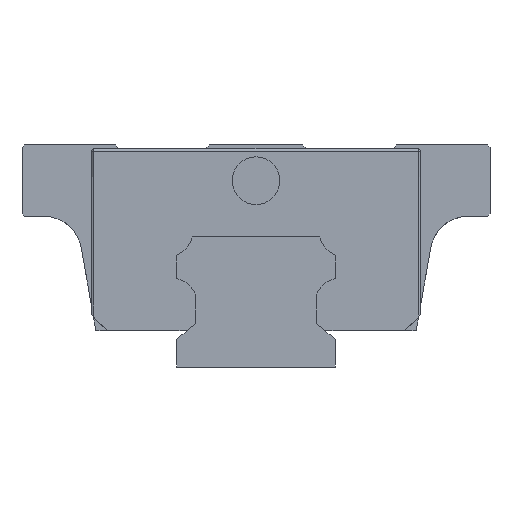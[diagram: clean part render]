
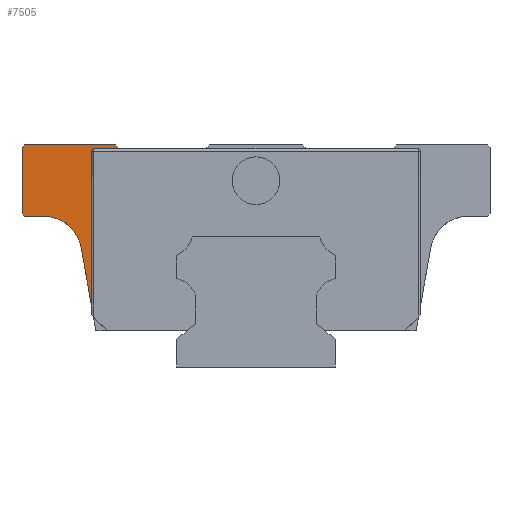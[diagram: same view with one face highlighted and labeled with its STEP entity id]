
A CAD part, left-side view. The second image highlights one B-rep face of the part: STEP entity #7505.
In plain terms, the highlighted planar face has unit normal (-1, 0, 0).
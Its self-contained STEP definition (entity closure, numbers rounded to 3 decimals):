
#331 = VECTOR ( 'NONE', #7490, 1000. ) ;
#350 = AXIS2_PLACEMENT_3D ( 'NONE', #927, #6254, #6780 ) ;
#358 = CARTESIAN_POINT ( 'NONE',  ( -23.35, 3.032, -7.173 ) ) ;
#469 = CIRCLE ( 'NONE', #350, 0.295 ) ;
#571 = CIRCLE ( 'NONE', #2782, 4.75 ) ;
#577 = CARTESIAN_POINT ( 'NONE',  ( -23.35, 22.036, 15.075 ) ) ;
#680 = EDGE_CURVE ( 'NONE', #1243, #4625, #4195, .T. ) ;
#725 = ORIENTED_EDGE ( 'NONE', *, *, #2370, .T. ) ;
#826 = DIRECTION ( 'NONE',  ( 0., -0.707, -0.707 ) ) ;
#846 = CARTESIAN_POINT ( 'NONE',  ( -23.35, 29.5, 19.295 ) ) ;
#927 = CARTESIAN_POINT ( 'NONE',  ( -23.35, 20.455, 27.205 ) ) ;
#929 = VECTOR ( 'NONE', #3980, 1000. ) ;
#1055 = VECTOR ( 'NONE', #2989, 1000. ) ;
#1141 = VECTOR ( 'NONE', #1935, 1000. ) ;
#1243 = VERTEX_POINT ( 'NONE', #4501 ) ;
#1263 = ORIENTED_EDGE ( 'NONE', *, *, #6845, .T. ) ;
#1285 = LINE ( 'NONE', #5395, #6929 ) ;
#1289 = PLANE ( 'NONE',  #1899 ) ;
#1326 = VERTEX_POINT ( 'NONE', #4746 ) ;
#1333 = CARTESIAN_POINT ( 'NONE',  ( -23.35, -8.741, 4.6 ) ) ;
#1367 = DIRECTION ( 'NONE',  ( 0., 0., 1. ) ) ;
#1476 = CARTESIAN_POINT ( 'NONE',  ( -23.35, -20.542, 27.5 ) ) ;
#1637 = ORIENTED_EDGE ( 'NONE', *, *, #5905, .T. ) ;
#1720 = CARTESIAN_POINT ( 'NONE',  ( -23.35, 29.5, 28. ) ) ;
#1792 = ORIENTED_EDGE ( 'NONE', *, *, #6629, .F. ) ;
#1868 = ORIENTED_EDGE ( 'NONE', *, *, #2943, .T. ) ;
#1876 = LINE ( 'NONE', #4221, #1055 ) ;
#1899 = AXIS2_PLACEMENT_3D ( 'NONE', #1333, #7201, #1367 ) ;
#1935 = DIRECTION ( 'NONE',  ( 0., 0.707, -0.707 ) ) ;
#1969 = CARTESIAN_POINT ( 'NONE',  ( -23.35, 21.932, 35.273 ) ) ;
#2210 = DIRECTION ( 'NONE',  ( 1., 0., 0. ) ) ;
#2243 = DIRECTION ( 'NONE',  ( 0., 0., 1. ) ) ;
#2370 = EDGE_CURVE ( 'NONE', #1326, #7393, #469, .T. ) ;
#2627 = EDGE_CURVE ( 'NONE', #4217, #7567, #5984, .T. ) ;
#2631 = ORIENTED_EDGE ( 'NONE', *, *, #2627, .T. ) ;
#2782 = AXIS2_PLACEMENT_3D ( 'NONE', #7532, #2210, #2243 ) ;
#2905 = CARTESIAN_POINT ( 'NONE',  ( -23.35, 29.5, 27.705 ) ) ;
#2936 = VERTEX_POINT ( 'NONE', #4560 ) ;
#2943 = EDGE_CURVE ( 'NONE', #6605, #2936, #7470, .T. ) ;
#2989 = DIRECTION ( 'NONE',  ( 0., 0., -1. ) ) ;
#3115 = DIRECTION ( 'NONE',  ( 0., -0.174, -0.985 ) ) ;
#3797 = EDGE_CURVE ( 'NONE', #1326, #7567, #1876, .T. ) ;
#3818 = VERTEX_POINT ( 'NONE', #5297 ) ;
#3874 = CARTESIAN_POINT ( 'NONE',  ( -23.35, 20.455, 27.5 ) ) ;
#3980 = DIRECTION ( 'NONE',  ( 0., 0.643, 0.766 ) ) ;
#4021 = LINE ( 'NONE', #6965, #929 ) ;
#4030 = DIRECTION ( 'NONE',  ( 0., 0., -1. ) ) ;
#4173 = VERTEX_POINT ( 'NONE', #5606 ) ;
#4195 = LINE ( 'NONE', #1969, #1141 ) ;
#4217 = VERTEX_POINT ( 'NONE', #577 ) ;
#4221 = CARTESIAN_POINT ( 'NONE',  ( -23.35, 20.75, 26.875 ) ) ;
#4264 = ORIENTED_EDGE ( 'NONE', *, *, #4968, .T. ) ;
#4477 = ORIENTED_EDGE ( 'NONE', *, *, #680, .T. ) ;
#4501 = CARTESIAN_POINT ( 'NONE',  ( -23.35, 29.205, 28. ) ) ;
#4560 = CARTESIAN_POINT ( 'NONE',  ( -23.35, 26.714, 19. ) ) ;
#4625 = VERTEX_POINT ( 'NONE', #2905 ) ;
#4746 = CARTESIAN_POINT ( 'NONE',  ( -23.35, 20.75, 27.205 ) ) ;
#4769 = LINE ( 'NONE', #358, #7187 ) ;
#4815 = EDGE_LOOP ( 'NONE', ( #1792, #1637, #6454, #4477, #5962, #1263, #1868, #4264, #2631, #6079, #725 ) ) ;
#4841 = VECTOR ( 'NONE', #4030, 1000. ) ;
#4881 = CARTESIAN_POINT ( 'NONE',  ( -23.35, 22.728, 19. ) ) ;
#4924 = VERTEX_POINT ( 'NONE', #846 ) ;
#4968 = EDGE_CURVE ( 'NONE', #2936, #4217, #571, .T. ) ;
#5120 = EDGE_CURVE ( 'NONE', #3818, #1243, #1285, .T. ) ;
#5297 = CARTESIAN_POINT ( 'NONE',  ( -23.35, 17.7, 28. ) ) ;
#5395 = CARTESIAN_POINT ( 'NONE',  ( -23.35, 17.7, 28. ) ) ;
#5400 = CARTESIAN_POINT ( 'NONE',  ( -23.35, 20.75, 7.78 ) ) ;
#5606 = CARTESIAN_POINT ( 'NONE',  ( -23.35, 17.28, 27.5 ) ) ;
#5723 = LINE ( 'NONE', #1720, #4841 ) ;
#5905 = EDGE_CURVE ( 'NONE', #4173, #3818, #4021, .T. ) ;
#5919 = DIRECTION ( 'NONE',  ( 0., 1., 0. ) ) ;
#5962 = ORIENTED_EDGE ( 'NONE', *, *, #7009, .T. ) ;
#5984 = LINE ( 'NONE', #4881, #6459 ) ;
#6079 = ORIENTED_EDGE ( 'NONE', *, *, #3797, .F. ) ;
#6126 = CARTESIAN_POINT ( 'NONE',  ( -23.35, 29.205, 19. ) ) ;
#6254 = DIRECTION ( 'NONE',  ( 1., 0., 0. ) ) ;
#6314 = DIRECTION ( 'NONE',  ( 0., -1., 0. ) ) ;
#6454 = ORIENTED_EDGE ( 'NONE', *, *, #5120, .T. ) ;
#6459 = VECTOR ( 'NONE', #3115, 1000. ) ;
#6605 = VERTEX_POINT ( 'NONE', #6126 ) ;
#6629 = EDGE_CURVE ( 'NONE', #4173, #7393, #6729, .T. ) ;
#6729 = LINE ( 'NONE', #1476, #331 ) ;
#6780 = DIRECTION ( 'NONE',  ( 0., 0., 1. ) ) ;
#6829 = VECTOR ( 'NONE', #6314, 1000. ) ;
#6845 = EDGE_CURVE ( 'NONE', #4924, #6605, #4769, .T. ) ;
#6884 = CARTESIAN_POINT ( 'NONE',  ( -23.35, 29.5, 19. ) ) ;
#6929 = VECTOR ( 'NONE', #5919, 1000. ) ;
#6965 = CARTESIAN_POINT ( 'NONE',  ( -23.35, 17.228, 27.438 ) ) ;
#7009 = EDGE_CURVE ( 'NONE', #4625, #4924, #5723, .T. ) ;
#7156 = FACE_OUTER_BOUND ( 'NONE', #4815, .T. ) ;
#7187 = VECTOR ( 'NONE', #826, 1000. ) ;
#7201 = DIRECTION ( 'NONE',  ( -1., 0., 0. ) ) ;
#7393 = VERTEX_POINT ( 'NONE', #3874 ) ;
#7470 = LINE ( 'NONE', #6884, #6829 ) ;
#7490 = DIRECTION ( 'NONE',  ( 0., 1., 0. ) ) ;
#7505 = ADVANCED_FACE ( 'NONE', ( #7156 ), #1289, .T. ) ;
#7532 = CARTESIAN_POINT ( 'NONE',  ( -23.35, 26.714, 14.25 ) ) ;
#7567 = VERTEX_POINT ( 'NONE', #5400 ) ;
